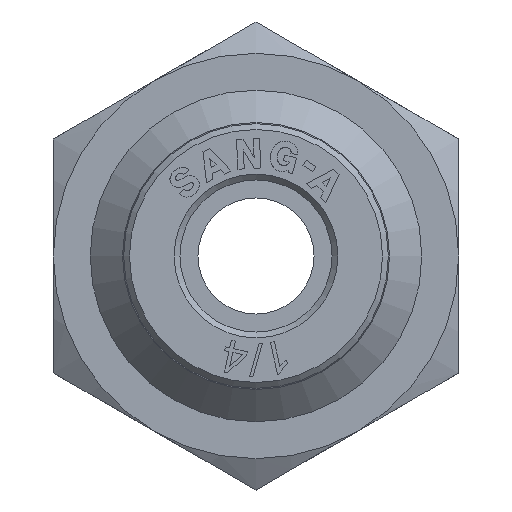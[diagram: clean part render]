
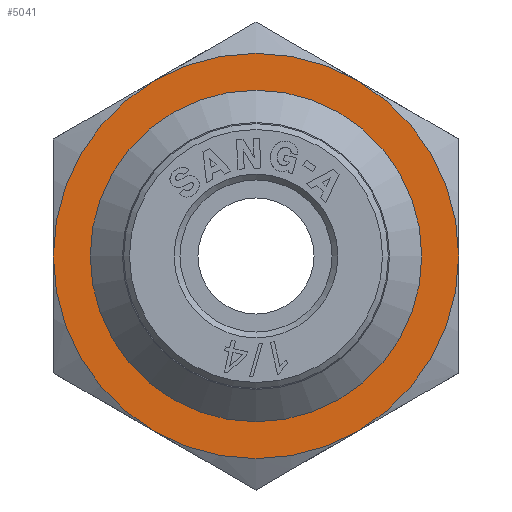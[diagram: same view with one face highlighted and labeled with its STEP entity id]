
A CAD part, left-side view. The second image highlights one B-rep face of the part: STEP entity #5041.
In plain terms, the highlighted planar face has unit normal (-1, 0, 0) as drawn and (0, 0, 1) by its records, which use the part's own axes.
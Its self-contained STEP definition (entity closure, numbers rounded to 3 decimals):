
#4945=CARTESIAN_POINT('',(6.981,0.,2.0));
#4946=VERTEX_POINT('',#4945);
#4947=CARTESIAN_POINT('',(0.0,0.0,2.0));
#4948=DIRECTION('',(0.0,0.0,1.0));
#4949=DIRECTION('',(-1.0,0.0,0.0));
#4950=AXIS2_PLACEMENT_3D('',#4947,#4948,#4949);
#4951=CIRCLE('',#4950,6.981);
#4952=EDGE_CURVE('',#4946,#4946,#4951,.T.);
#4977=CARTESIAN_POINT('',(0.,0.,2.0));
#4978=DIRECTION('',(0.0,0.0,1.0));
#4979=DIRECTION('',(1.0,0.0,0.0));
#4980=AXIS2_PLACEMENT_3D('',#4977,#4978,#4979);
#4981=PLANE('',#4980);
#4982=CARTESIAN_POINT('',(4.366,7.561,2.0));
#4983=VERTEX_POINT('',#4982);
#4984=CARTESIAN_POINT('',(-4.366,7.561,2.0));
#4985=VERTEX_POINT('',#4984);
#4986=CARTESIAN_POINT('',(0.0,0.0,2.0));
#4987=DIRECTION('',(0.0,0.0,1.0));
#4988=DIRECTION('',(0.0,-1.0,0.0));
#4989=AXIS2_PLACEMENT_3D('',#4986,#4987,#4988);
#4990=CIRCLE('',#4989,8.731);
#4991=EDGE_CURVE('',#4983,#4985,#4990,.T.);
#4992=ORIENTED_EDGE('',*,*,#4991,.T.);
#4993=CARTESIAN_POINT('',(-8.731,0.,2.0));
#4994=VERTEX_POINT('',#4993);
#4995=CARTESIAN_POINT('',(0.0,0.0,2.0));
#4996=DIRECTION('',(0.0,0.0,1.0));
#4997=DIRECTION('',(0.0,-1.0,0.0));
#4998=AXIS2_PLACEMENT_3D('',#4995,#4996,#4997);
#4999=CIRCLE('',#4998,8.731);
#5000=EDGE_CURVE('',#4985,#4994,#4999,.T.);
#5001=ORIENTED_EDGE('',*,*,#5000,.T.);
#5002=CARTESIAN_POINT('',(-4.366,-7.561,2.0));
#5003=VERTEX_POINT('',#5002);
#5004=CARTESIAN_POINT('',(0.0,0.0,2.0));
#5005=DIRECTION('',(0.0,0.0,1.0));
#5006=DIRECTION('',(0.0,-1.0,0.0));
#5007=AXIS2_PLACEMENT_3D('',#5004,#5005,#5006);
#5008=CIRCLE('',#5007,8.731);
#5009=EDGE_CURVE('',#4994,#5003,#5008,.T.);
#5010=ORIENTED_EDGE('',*,*,#5009,.T.);
#5011=CARTESIAN_POINT('',(4.366,-7.561,2.0));
#5012=VERTEX_POINT('',#5011);
#5013=CARTESIAN_POINT('',(0.0,0.0,2.0));
#5014=DIRECTION('',(0.0,0.0,1.0));
#5015=DIRECTION('',(0.0,-1.0,0.0));
#5016=AXIS2_PLACEMENT_3D('',#5013,#5014,#5015);
#5017=CIRCLE('',#5016,8.731);
#5018=EDGE_CURVE('',#5003,#5012,#5017,.T.);
#5019=ORIENTED_EDGE('',*,*,#5018,.T.);
#5020=CARTESIAN_POINT('',(8.731,0.,2.0));
#5021=VERTEX_POINT('',#5020);
#5022=CARTESIAN_POINT('',(0.0,0.0,2.0));
#5023=DIRECTION('',(0.0,0.0,1.0));
#5024=DIRECTION('',(0.0,-1.0,0.0));
#5025=AXIS2_PLACEMENT_3D('',#5022,#5023,#5024);
#5026=CIRCLE('',#5025,8.731);
#5027=EDGE_CURVE('',#5012,#5021,#5026,.T.);
#5028=ORIENTED_EDGE('',*,*,#5027,.T.);
#5029=CARTESIAN_POINT('',(0.0,0.0,2.0));
#5030=DIRECTION('',(0.0,0.0,1.0));
#5031=DIRECTION('',(0.0,-1.0,0.0));
#5032=AXIS2_PLACEMENT_3D('',#5029,#5030,#5031);
#5033=CIRCLE('',#5032,8.731);
#5034=EDGE_CURVE('',#5021,#4983,#5033,.T.);
#5035=ORIENTED_EDGE('',*,*,#5034,.T.);
#5036=EDGE_LOOP('',(#4992,#5001,#5010,#5019,#5028,#5035));
#5037=FACE_OUTER_BOUND('',#5036,.T.);
#5038=ORIENTED_EDGE('',*,*,#4952,.F.);
#5039=EDGE_LOOP('',(#5038));
#5040=FACE_BOUND('',#5039,.T.);
#5041=ADVANCED_FACE('',(#5037,#5040),#4981,.T.);
